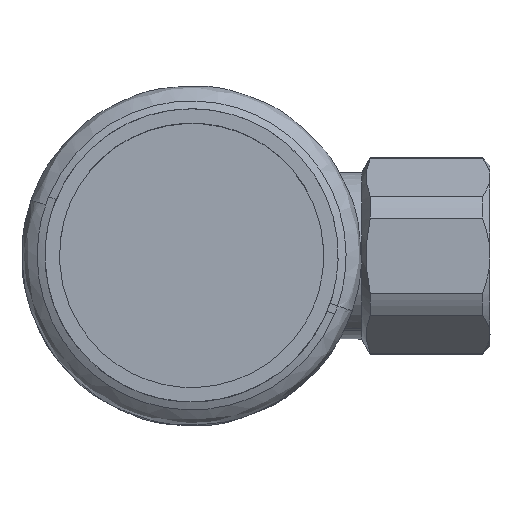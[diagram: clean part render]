
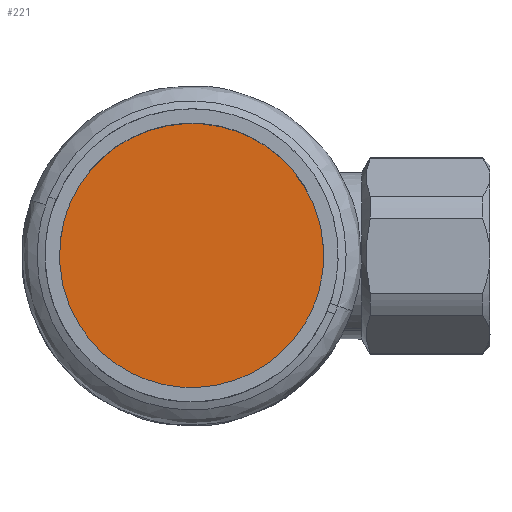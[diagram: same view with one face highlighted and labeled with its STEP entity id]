
A CAD part, top view. The second image highlights one B-rep face of the part: STEP entity #221.
In plain terms, the highlighted free-form (B-spline) face has degree [1, 1] with [2, 2] control points.
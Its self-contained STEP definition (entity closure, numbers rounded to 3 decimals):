
#221=ADVANCED_FACE('',(#452),#453,.T.);
#452=FACE_OUTER_BOUND('',#2211,.T.);
#453=B_SPLINE_SURFACE_WITH_KNOTS('',1,1,((#2212,#2213),(#2214,#2215)),.UNSPECIFIED.,.F.,.F.,.F.,(2,2),(2,2),(0.0,35.),(0.0,35.),.UNSPECIFIED.);
#2211=EDGE_LOOP('',(#2885,#2886,#2887));
#2212=CARTESIAN_POINT('',(-17.5,-17.5,19.));
#2213=CARTESIAN_POINT('',(-17.5,17.5,19.));
#2214=CARTESIAN_POINT('',(17.5,-17.5,19.));
#2215=CARTESIAN_POINT('',(17.5,17.5,19.));
#2885=ORIENTED_EDGE('',*,*,#3226,.T.);
#2886=ORIENTED_EDGE('',*,*,#3043,.T.);
#2887=ORIENTED_EDGE('',*,*,#3047,.T.);
#3043=EDGE_CURVE('',#3356,#3360,#3362,.T.);
#3047=EDGE_CURVE('',#3360,#3366,#3368,.T.);
#3226=EDGE_CURVE('',#3366,#3356,#3628,.T.);
#3356=VERTEX_POINT('',#4316);
#3360=VERTEX_POINT('',#4334);
#3362=(B_SPLINE_CURVE(2,(#4338,#4339,#4340,#4341,#4342,#4343,#4344),.UNSPECIFIED.,.F.,.F.)B_SPLINE_CURVE_WITH_KNOTS((3,2,2,3),(-3.078,-1.571,0.,0.063),.UNSPECIFIED.)RATIONAL_B_SPLINE_CURVE((0.977,0.719,1.0,0.707,1.0,0.988,0.977))BOUNDED_CURVE()REPRESENTATION_ITEM('')GEOMETRIC_REPRESENTATION_ITEM()CURVE());
#3366=VERTEX_POINT('',#4365);
#3368=(B_SPLINE_CURVE(2,(#4369,#4370,#4371,#4372,#4373),.UNSPECIFIED.,.F.,.F.)B_SPLINE_CURVE_WITH_KNOTS((3,2,3),(0.063,1.571,3.142),.UNSPECIFIED.)RATIONAL_B_SPLINE_CURVE((0.977,0.719,1.0,0.707,1.0))BOUNDED_CURVE()REPRESENTATION_ITEM('')GEOMETRIC_REPRESENTATION_ITEM()CURVE());
#3628=(B_SPLINE_CURVE(2,(#5518,#5519,#5520),.UNSPECIFIED.,.F.,.F.)B_SPLINE_CURVE_WITH_KNOTS((3,3),(-3.142,-3.078),.UNSPECIFIED.)RATIONAL_B_SPLINE_CURVE((1.0,0.988,0.977))BOUNDED_CURVE()REPRESENTATION_ITEM('')GEOMETRIC_REPRESENTATION_ITEM()CURVE());
#4316=CARTESIAN_POINT('',(16.841,-4.759,19.));
#4334=CARTESIAN_POINT('',(-16.841,4.759,19.));
#4338=CARTESIAN_POINT('',(16.841,-4.759,19.));
#4339=CARTESIAN_POINT('',(21.333,11.139,19.));
#4340=CARTESIAN_POINT('',(5.72,16.539,19.));
#4341=CARTESIAN_POINT('',(-10.818,22.259,19.));
#4342=CARTESIAN_POINT('',(-16.539,5.72,19.));
#4343=CARTESIAN_POINT('',(-16.703,5.244,19.));
#4344=CARTESIAN_POINT('',(-16.841,4.759,19.));
#4365=CARTESIAN_POINT('',(16.539,-5.72,19.));
#4369=CARTESIAN_POINT('',(-16.841,4.759,19.));
#4370=CARTESIAN_POINT('',(-21.333,-11.139,19.));
#4371=CARTESIAN_POINT('',(-5.72,-16.539,19.));
#4372=CARTESIAN_POINT('',(10.818,-22.259,19.));
#4373=CARTESIAN_POINT('',(16.539,-5.72,19.));
#5518=CARTESIAN_POINT('',(16.539,-5.72,19.));
#5519=CARTESIAN_POINT('',(16.703,-5.244,19.));
#5520=CARTESIAN_POINT('',(16.841,-4.759,19.));
